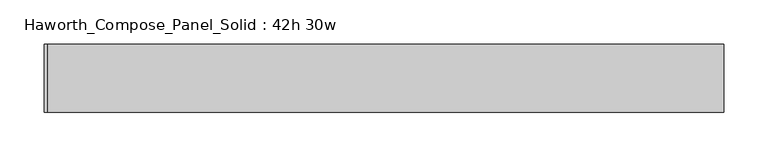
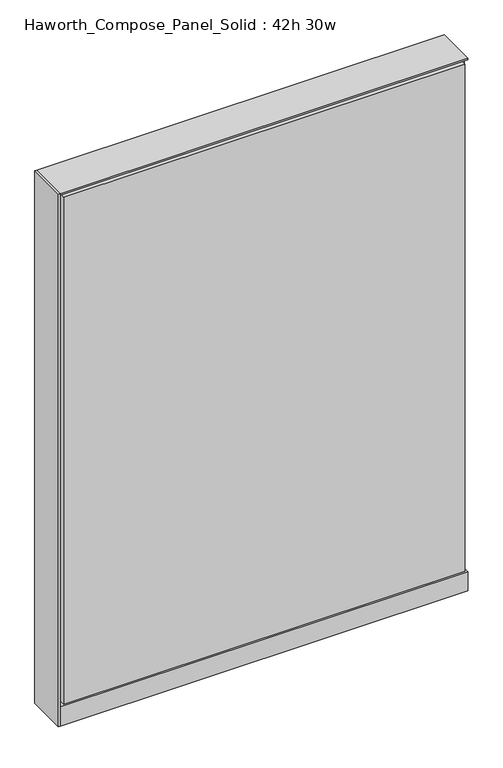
"""IFC4 building model written with IfcOpenShell, lengths in millimetres: furniture geometry, Haworth_Compose_Panel_Solid : 42h 30w."""

from ifc_helpers import new_model, si_unit, point, frame, frame_2d, origin, origin_with_axes, place, context, project, spatial, polyline, circle_curve, trimmed, segment, composite_curve, outline, extrude, source, transform, mapped, element, save


def haworth_compose_panel_solid_42h_30w_9003e319(model_context):
    return source(origin(), model_context, "Body", "SweptSolid", [
        extrude(outline(composite_curve([segment(trimmed(circle_curve(frame_2d((-302.3597098, 0.0)), 12.7), [point((-315.0597098, 0.0))], [point((-289.6597098, 0.0))], False, "CARTESIAN"), True, "CONTINUOUS"), segment(trimmed(circle_curve(frame_2d((-302.3597098, 0.0)), 12.7), [point((-289.6597098, 0.0))], [point((-315.0597098, 0.0))], False, "CARTESIAN"), True, "CONTINUOUS")], self_intersect=False)), origin_with_axes(), (0.0, 0.0, 1.0), 12.7),
        extrude(outline(composite_curve([segment(trimmed(circle_curve(frame_2d((307.2402902, 0.0)), 12.7), [point((294.5402902, 0.0))], [point((319.9402902, 0.0))], False, "CARTESIAN"), True, "CONTINUOUS"), segment(trimmed(circle_curve(frame_2d((307.2402902, 0.0)), 12.7), [point((319.9402902, 0.0))], [point((294.5402902, 0.0))], False, "CARTESIAN"), True, "CONTINUOUS")], self_intersect=False)), origin_with_axes(), (0.0, 0.0, 1.0), 12.7),
        extrude(outline(polyline([(-381.7347098, -38.1), (-381.7347098, 38.1), (-378.5597098, 38.1), (-378.5597098, -38.1), (-381.7347098, -38.1)])), frame((0.0, 0.0, 12.7), z_axis=(0.0, 0.0, 1.0), x_axis=(1.0, 0.0, 0.0)), (0.0, 0.0, 1.0), 1050.925),
        extrude(outline(polyline([(377.0902902, -38.1), (-372.2097098, -38.1), (-372.2097098, -25.4), (377.0902902, -25.4), (377.0902902, -38.1)])), frame((0.0, 0.0, 53.975), z_axis=(0.0, 0.0, 1.0), x_axis=(1.0, 0.0, 0.0)), (0.0, 0.0, 1.0), 1000.125),
        extrude(outline(polyline([(383.4402902, 38.1), (383.4402902, 25.4), (-378.5597098, 25.4), (-378.5597098, 38.1), (383.4402902, 38.1)])), frame((0.0, 0.0, 50.8), z_axis=(0.0, 0.0, 1.0), x_axis=(1.0, 0.0, 0.0)), (0.0, 0.0, 1.0), 203.2),
        extrude(outline(polyline([(377.0902902, 38.1), (377.0902902, 25.4), (-372.2097098, 25.4), (-372.2097098, 38.1), (377.0902902, 38.1)])), frame((0.0, 0.0, 257.175), z_axis=(0.0, 0.0, 1.0), x_axis=(1.0, 0.0, 0.0)), (0.0, 0.0, 1.0), 796.925),
        extrude(outline(polyline([(383.4402902, -25.4), (-378.5597098, -25.4), (-378.5597098, 25.4), (383.4402902, 25.4), (383.4402902, -25.4)])), frame((0.0, 0.0, 12.7), z_axis=(0.0, 0.0, 1.0), x_axis=(1.0, 0.0, 0.0)), (0.0, 0.0, 1.0), 1047.75),
        extrude(outline(polyline([(-378.5597098, 38.1), (383.4402902, 38.1), (383.4402902, -38.1), (-378.5597098, -38.1), (-378.5597098, 38.1)])), frame((0.0, 0.0, 12.7), z_axis=(0.0, 0.0, 1.0), x_axis=(1.0, 0.0, 0.0)), (0.0, 0.0, 1.0), 38.1),
        extrude(outline(polyline([(-378.5597098, 38.1), (383.4402902, 38.1), (383.4402902, -38.1), (-378.5597098, -38.1), (-378.5597098, 38.1)])), frame((0.0, 0.0, 1060.45), z_axis=(0.0, 0.0, 1.0), x_axis=(1.0, 0.0, 0.0)), (0.0, 0.0, 1.0), 3.175),
    ])


if __name__ == "__main__":
    model = new_model("IFC4")
    model_context = context("Model", 3, world=origin())
    ifc_project = project(units=[si_unit("LENGTHUNIT", "METRE", prefix="MILLI")], contexts=[model_context])
    site = spatial("IfcSite", under=ifc_project)
    building = spatial("IfcBuilding", under=site)
    placement = place(None, origin())
    haworth_compose_panel_solid_42h_30w_shape = haworth_compose_panel_solid_42h_30w_9003e319(model_context)
    element("IfcFurniture", 1, ObjectType="Haworth_Compose_Panel_Solid : 42h 30w", at=placement, inside=building, context=model_context, shape_type="MappedRepresentation", body=[
        mapped(haworth_compose_panel_solid_42h_30w_shape, transform((0.0, 0.0, 0.0), x_axis=(1.0, 0.0, 0.0), y_axis=(0.0, 1.0, 0.0), z_axis=(0.0, 0.0, 1.0))),
    ])
    save(model, "model.ifc")
